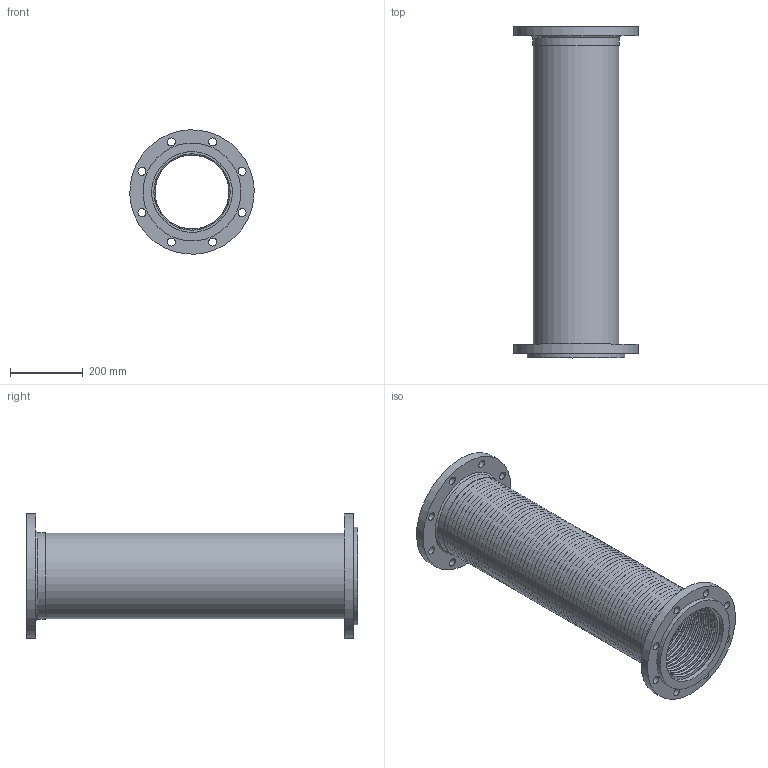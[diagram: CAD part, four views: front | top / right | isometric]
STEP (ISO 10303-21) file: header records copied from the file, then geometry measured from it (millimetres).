
FILE_DESCRIPTION((''),'2;1');
FILE_NAME('C:\REVIT SHARED FILES\STP\FFL8x36ASA150.stp','2013-06-14T19:16:34',('rramoutar'),(''),'Autodesk Inventor 2012','Autodesk Inventor 2012','');
FILE_SCHEMA(('AUTOMOTIVE_DESIGN { 1 0 10303 214 1 1 1 1 }'));
Length unit declared in the file: inch
Products named in the file (8): FFL 8x36 Per A-30312-3; FFL 8x36 Per A-30312-3_Welds; A-30302-2 FIXED FLANGE 8 inch 150 #; A-30303-1 FLOATING FLANGE 8 inch 150 #; A-30840-1 VFL 8.0 inch WELDED WASHER; A-29781-7 8.0 inch braid collar; FFL 8x36 Stainless Braid; FFL 8x36 Stainless Hose
Assembly tree (8 placements, depth 2):
  FFL 8x36 Per A-30312-3
    FFL 8x36 Per A-30312-3_Welds
    A-30302-2 FIXED FLANGE 8 inch 150 #
    A-30303-1 FLOATING FLANGE 8 inch 150 #
    A-30840-1 VFL 8.0 inch WELDED WASHER
    A-29781-7 8.0 inch braid collar  x2
    FFL 8x36 Stainless Braid
    FFL 8x36 Stainless Hose
Bounding box: 342.57 x 914.4 x 342.57 mm (x, y, z)
Volume: 3882612.4 mm3; surface area: 5241172 mm2
Topology: 9 solids, 9 shells, 581 faces, 1167 edges, 603 vertices
Faces by surface type: torus 266, cone 265, cylinder 31, plane 17, bspline 2
Full cylindrical faces by diameter (mm): 22.225 x16, 222.25 x2, 234.95 x1, 235.966 x3, 238.347 x4, 244.475 x1, 269.875 x2, 342.9 x2
Entity records: 12574 total; most frequent: DIRECTION 2360, CARTESIAN_POINT 2277, ORIENTED_EDGE 1198, EDGE_LOOP 1184, AXIS2_PLACEMENT_3D 1180, FACE_BOUND 607, EDGE_CURVE 599, VERTEX_POINT 597
